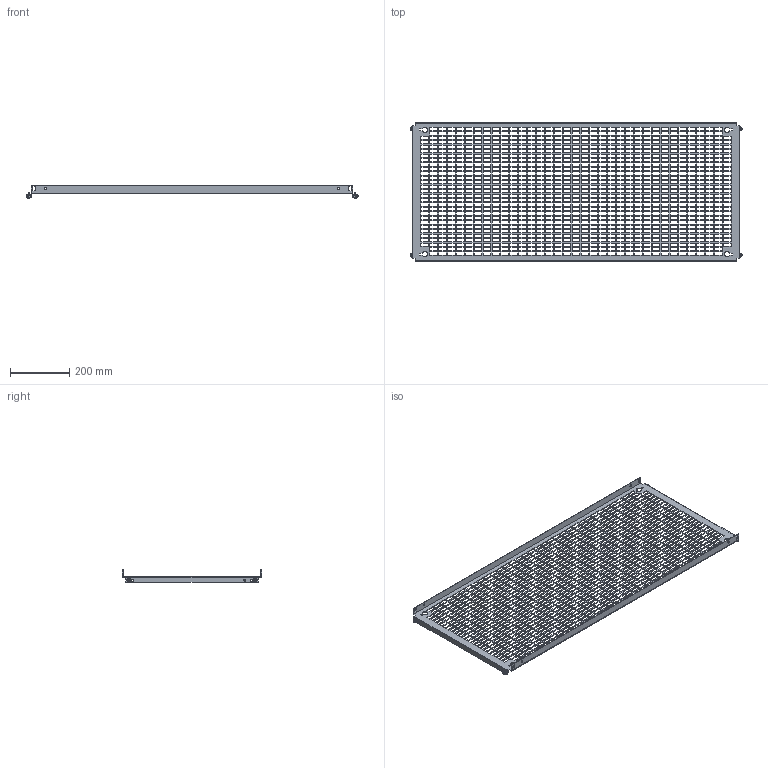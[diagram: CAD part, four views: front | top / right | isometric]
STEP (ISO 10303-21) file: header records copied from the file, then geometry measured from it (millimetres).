
FILE_DESCRIPTION(('Open CASCADE Model'),'2;1');
FILE_NAME('Open CASCADE Shape Model','2025-02-19T16:52:04',('Author'),( 'Open CASCADE'),'Open CASCADE STEP processor 7.8','Open CASCADE 7.8' ,'Unknown');
FILE_SCHEMA(('AUTOMOTIVE_DESIGN { 1 0 10303 214 1 1 1 1 }'));
Length unit declared in the file: millimetre
Products named in the file (4): Compound1; Solid1; Solid2; Solid3
Assembly tree (9 placements, depth 2):
  Compound1
    Solid1
    Solid2  x4
    Solid3  x4
Bounding box: 1119 x 469 x 42.59 mm (x, y, z)
Volume: 733139.9 mm3; surface area: 783354.4 mm2
Topology: 9 solids, 9 shells, 4383 faces, 12957 edges, 8603 vertices
Faces by surface type: plane 4210, cone 68, bspline 63, cylinder 30, torus 12
Full cylindrical faces by diameter (mm): 5 x4, 6 x8, 7 x14
Entity records: 144490 total; most frequent: CARTESIAN_POINT 26789, ORIENTED_EDGE 25236, DIRECTION 20996, EDGE_CURVE 12618, LINE 12430, VECTOR 12430, VERTEX_POINT 8405, FACE_BOUND 6295
